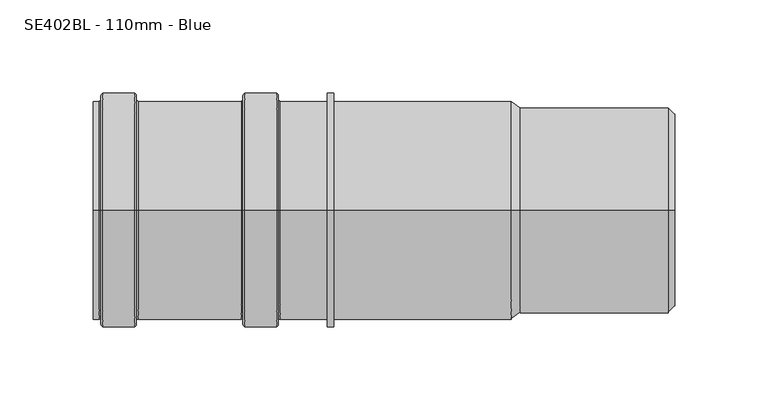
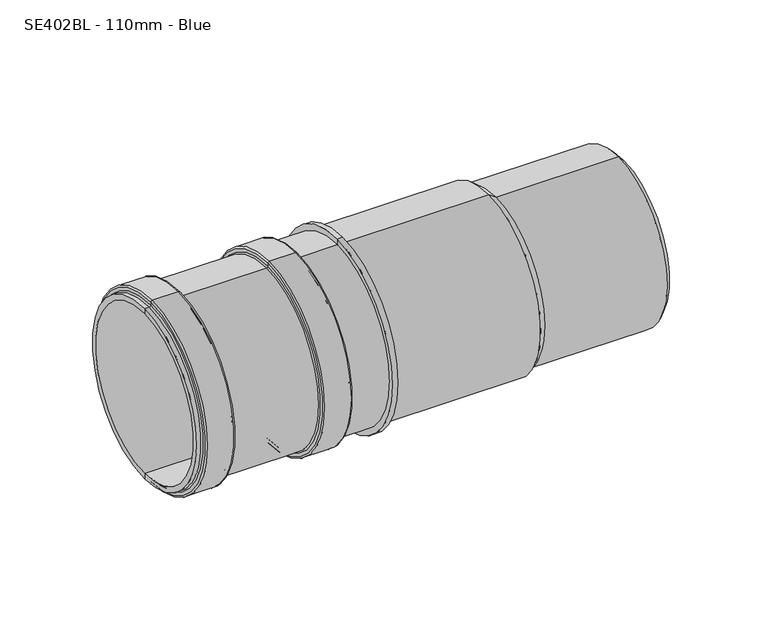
"""IFC4 building model written with IfcOpenShell, lengths in millimetres: pipe fitting geometry, MarleyPlumbingAndDrainage_PipeFitting_dBlueTripleSocket : SE402BL - 110mm - Blue."""

from ifc_helpers import new_model, si_unit, point, frame, origin, place, context, project, spatial, polyline, circle_curve, ellipse_curve, trimmed, source, transform, mapped, element, save
from ifc_brep_helpers import plane_surface, cylinder_surface, revolved_surface, advanced_brep


def se402bl_110mm_blue_ff2aa63c(model_context):
    return source(origin(), model_context, "Body", "AdvancedBrep", [
        advanced_brep(
        [(-147.3253818, 0.0, -59.5), (-147.3253818, 0.0, 59.5), (-146.3253818, 0.0, 58.5), (-146.3253818, 0.0, -58.5), (-147.3253818, 0.0, -61.5), (-147.3253818, 0.0, 61.5), (-148.3253818, 0.0, -62.5), (-148.3253818, 0.0, 62.5), (-165.3253818, 0.0, -62.5), (-165.3253818, 0.0, 62.5), (-166.3253818, 0.0, -61.5), (-166.3253818, 0.0, 61.5), (-166.3253818, 0.0, -59.5), (-166.3253818, 0.0, 59.5), (-167.3253818, 0.0, -58.5), (-167.3253818, 0.0, 58.5), (-170.3253818, 0.0, -58.5), (-170.3253818, 0.0, 58.5), (-170.3253818, 0.0, -55.0), (-170.3253818, 0.0, 55.0), (51.6746182, 0.0, -55.0), (51.6746182, 0.0, 55.0), (-91.2961891, 0.0, 58.5), (-91.2961891, 0.0, -58.5), (140.6746182, 0.0, -51.5), (140.6746182, 0.0, 51.5), (56.4919549, 0.0, 51.5), (56.4919549, 0.0, -51.5), (-70.3298051, 0.0, -58.5), (-70.3298051, 0.0, 58.5), (-45.3253818, 0.0, 58.5), (-45.3253818, 0.0, -58.5), (-71.3253818, 0.0, -61.5), (-71.3253818, 0.0, 61.5), (-71.3253818, 0.0, 59.4955767), (-71.3253818, 0.0, -59.4955767), (-89.3187639, 0.0, -62.5), (-89.3187639, 0.0, 62.5), (-72.3253818, 0.0, 62.5), (-72.3253818, 0.0, -62.5), (-90.3253818, 0.0, -59.4708073), (-90.3253818, 0.0, 59.4708073), (-90.3253818, 0.0, 61.4933821), (-90.3253818, 0.0, -61.4933821), (57.9919549, 0.0, -55.0), (57.9919549, 0.0, 55.0), (137.1746182, 0.0, 55.0), (137.1746182, 0.0, -55.0), (53.1746182, 0.0, -58.5), (53.1746182, 0.0, 58.5), (-41.8253818, 0.0, -58.5), (-41.8253818, 0.0, 58.5), (-41.8253818, 0.0, -62.5), (-41.8253818, 0.0, 62.5), (-45.3253818, 0.0, -62.5), (-45.3253818, 0.0, 62.5)],
        [
            (0, 1, circle_curve(frame((-147.3253818, 0.0, 0.0), z_axis=(1.0, 0.0, 0.0), x_axis=(0.0, 0.0, 1.0)), 59.5)),
            (1, 2, circle_curve(frame((-146.3253818, 0.0, 59.5), z_axis=(0.0, -1.0, 0.0), x_axis=(1.0, 0.0, 0.0)), 1.0)),
            (2, 3, circle_curve(frame((-146.3253818, 0.0, 0.0), z_axis=(-1.0, 0.0, 0.0), x_axis=(0.0, 0.0, 1.0)), 58.5)),
            (3, 0, circle_curve(frame((-146.3253818, 0.0, -59.5), z_axis=(0.0, -1.0, 0.0), x_axis=(1.0, 0.0, 0.0)), 1.0)),
            (1, 0, circle_curve(frame((-147.3253818, 0.0, 0.0), z_axis=(1.0, 0.0, 0.0), x_axis=(0.0, 0.0, 1.0)), 59.5)),
            (3, 2, circle_curve(frame((-146.3253818, 0.0, 0.0), z_axis=(-1.0, 0.0, 0.0), x_axis=(0.0, 0.0, 1.0)), 58.5)),
            (4, 5, circle_curve(frame((-147.3253818, 0.0, 0.0), z_axis=(1.0, 0.0, 0.0), x_axis=(0.0, 0.0, 1.0)), 61.5)),
            (5, 1),
            (0, 4),
            (5, 4, circle_curve(frame((-147.3253818, 0.0, 0.0), z_axis=(1.0, 0.0, 0.0), x_axis=(0.0, 0.0, 1.0)), 61.5)),
            (6, 7, circle_curve(frame((-148.3253818, 0.0, 0.0), z_axis=(1.0, 0.0, 0.0), x_axis=(0.0, 0.0, 1.0)), 62.5)),
            (7, 5, circle_curve(frame((-148.3253818, 0.0, 61.5), z_axis=(0.0, 1.0, 0.0), x_axis=(1.0, 0.0, 0.0)), 1.0)),
            (4, 6, circle_curve(frame((-148.3253818, 0.0, -61.5), z_axis=(0.0, 1.0, 0.0), x_axis=(1.0, 0.0, 0.0)), 1.0)),
            (7, 6, circle_curve(frame((-148.3253818, 0.0, 0.0), z_axis=(1.0, 0.0, 0.0), x_axis=(0.0, 0.0, 1.0)), 62.5)),
            (8, 9, circle_curve(frame((-165.3253818, 0.0, 0.0), z_axis=(1.0, 0.0, 0.0), x_axis=(0.0, 0.0, 1.0)), 62.5)),
            (9, 7),
            (6, 8),
            (9, 8, circle_curve(frame((-165.3253818, 0.0, 0.0), z_axis=(1.0, 0.0, 0.0), x_axis=(0.0, 0.0, 1.0)), 62.5)),
            (10, 11, circle_curve(frame((-166.3253818, 0.0, 0.0), z_axis=(1.0, 0.0, 0.0), x_axis=(0.0, 0.0, 1.0)), 61.5)),
            (11, 9, circle_curve(frame((-165.3253818, 0.0, 61.5), z_axis=(0.0, 1.0, 0.0), x_axis=(1.0, 0.0, 0.0)), 1.0)),
            (8, 10, circle_curve(frame((-165.3253818, 0.0, -61.5), z_axis=(0.0, 1.0, 0.0), x_axis=(1.0, 0.0, 0.0)), 1.0)),
            (11, 10, circle_curve(frame((-166.3253818, 0.0, 0.0), z_axis=(1.0, 0.0, 0.0), x_axis=(0.0, 0.0, 1.0)), 61.5)),
            (12, 13, circle_curve(frame((-166.3253818, 0.0, 0.0), z_axis=(1.0, 0.0, 0.0), x_axis=(0.0, 0.0, 1.0)), 59.5)),
            (13, 11),
            (10, 12),
            (13, 12, circle_curve(frame((-166.3253818, 0.0, 0.0), z_axis=(1.0, 0.0, 0.0), x_axis=(0.0, 0.0, 1.0)), 59.5)),
            (14, 15, circle_curve(frame((-167.3253818, 0.0, 0.0), z_axis=(1.0, 0.0, 0.0), x_axis=(0.0, 0.0, 1.0)), 58.5)),
            (15, 13, circle_curve(frame((-167.3253818, 0.0, 59.5), z_axis=(0.0, -1.0, 0.0), x_axis=(1.0, 0.0, 0.0)), 1.0)),
            (12, 14, circle_curve(frame((-167.3253818, 0.0, -59.5), z_axis=(0.0, -1.0, 0.0), x_axis=(1.0, 0.0, 0.0)), 1.0)),
            (15, 14, circle_curve(frame((-167.3253818, 0.0, 0.0), z_axis=(1.0, 0.0, 0.0), x_axis=(0.0, 0.0, 1.0)), 58.5)),
            (16, 17, circle_curve(frame((-170.3253818, 0.0, 0.0), z_axis=(1.0, 0.0, 0.0), x_axis=(0.0, 0.0, 1.0)), 58.5)),
            (17, 15),
            (14, 16),
            (17, 16, circle_curve(frame((-170.3253818, 0.0, 0.0), z_axis=(1.0, 0.0, 0.0), x_axis=(0.0, 0.0, 1.0)), 58.5)),
            (18, 19, circle_curve(frame((-170.3253818, 0.0, 0.0), z_axis=(1.0, 0.0, 0.0), x_axis=(0.0, 0.0, 1.0)), 55.0)),
            (19, 17),
            (16, 18),
            (19, 18, circle_curve(frame((-170.3253818, 0.0, 0.0), z_axis=(1.0, 0.0, 0.0), x_axis=(0.0, 0.0, 1.0)), 55.0)),
            (20, 21, circle_curve(frame((51.6746182, 0.0, 0.0), z_axis=(1.0, 0.0, 0.0), x_axis=(0.0, 0.0, 1.0)), 55.0)),
            (21, 19),
            (18, 20),
            (21, 20, circle_curve(frame((51.6746182, 0.0, 0.0), z_axis=(1.0, 0.0, 0.0), x_axis=(0.0, 0.0, 1.0)), 55.0)),
            (2, 22),
            (22, 23, circle_curve(frame((-91.2961891, 0.0, 0.0), z_axis=(-1.0, 0.0, 0.0), x_axis=(0.0, 0.0, 1.0)), 58.5)),
            (23, 3),
            (23, 22, circle_curve(frame((-91.2961891, 0.0, 0.0), z_axis=(-1.0, 0.0, 0.0), x_axis=(0.0, 0.0, 1.0)), 58.5)),
            (24, 25, circle_curve(frame((140.6746182, 0.0, 0.0), z_axis=(1.0, 0.0, 0.0), x_axis=(0.0, 0.0, 1.0)), 51.5)),
            (25, 26),
            (26, 27, circle_curve(frame((56.4919549, 0.0, 0.0), z_axis=(-1.0, 0.0, 0.0), x_axis=(0.0, 0.0, 1.0)), 51.5)),
            (27, 24),
            (25, 24, circle_curve(frame((140.6746182, 0.0, 0.0), z_axis=(1.0, 0.0, 0.0), x_axis=(0.0, 0.0, 1.0)), 51.5)),
            (27, 26, circle_curve(frame((56.4919549, 0.0, 0.0), z_axis=(-1.0, 0.0, 0.0), x_axis=(0.0, 0.0, 1.0)), 51.5)),
            (28, 29, circle_curve(frame((-70.3298051, 0.0, 0.0), z_axis=(1.0, 0.0, 0.0), x_axis=(0.0, 0.0, 1.0)), 58.5)),
            (29, 30),
            (30, 31, circle_curve(frame((-45.3253818, 0.0, 0.0), z_axis=(-1.0, 0.0, 0.0), x_axis=(0.0, 0.0, 1.0)), 58.5)),
            (31, 28),
            (29, 28, circle_curve(frame((-70.3298051, 0.0, 0.0), z_axis=(1.0, 0.0, 0.0), x_axis=(0.0, 0.0, 1.0)), 58.5)),
            (31, 30, circle_curve(frame((-45.3253818, 0.0, 0.0), z_axis=(-1.0, 0.0, 0.0), x_axis=(0.0, 0.0, 1.0)), 58.5)),
            (32, 33, circle_curve(frame((-71.3253818, 0.0, 0.0), z_axis=(1.0, 0.0, 0.0), x_axis=(0.0, 0.0, 1.0)), 61.5)),
            (33, 34),
            (34, 35, circle_curve(frame((-71.3253818, 0.0, 0.0), z_axis=(-1.0, 0.0, 0.0), x_axis=(0.0, 0.0, 1.0)), 59.4955767)),
            (35, 32),
            (33, 32, circle_curve(frame((-71.3253818, 0.0, 0.0), z_axis=(1.0, 0.0, 0.0), x_axis=(0.0, 0.0, 1.0)), 61.5)),
            (35, 34, circle_curve(frame((-71.3253818, 0.0, 0.0), z_axis=(-1.0, 0.0, 0.0), x_axis=(0.0, 0.0, 1.0)), 59.4955767)),
            (36, 37, circle_curve(frame((-89.3187639, 0.0, 0.0), z_axis=(1.0, 0.0, 0.0), x_axis=(0.0, 0.0, 1.0)), 62.5)),
            (37, 38),
            (38, 39, circle_curve(frame((-72.3253818, 0.0, 0.0), z_axis=(-1.0, 0.0, 0.0), x_axis=(0.0, 0.0, 1.0)), 62.5)),
            (39, 36),
            (37, 36, circle_curve(frame((-89.3187639, 0.0, 0.0), z_axis=(1.0, 0.0, 0.0), x_axis=(0.0, 0.0, 1.0)), 62.5)),
            (39, 38, circle_curve(frame((-72.3253818, 0.0, 0.0), z_axis=(-1.0, 0.0, 0.0), x_axis=(0.0, 0.0, 1.0)), 62.5)),
            (40, 41, circle_curve(frame((-90.3253818, 0.0, 0.0), z_axis=(1.0, 0.0, 0.0), x_axis=(0.0, 0.0, 1.0)), 59.4708073)),
            (41, 42),
            (42, 43, circle_curve(frame((-90.3253818, 0.0, 0.0), z_axis=(-1.0, 0.0, 0.0), x_axis=(0.0, 0.0, 1.0)), 61.4933821)),
            (43, 40),
            (41, 40, circle_curve(frame((-90.3253818, 0.0, 0.0), z_axis=(1.0, 0.0, 0.0), x_axis=(0.0, 0.0, 1.0)), 59.4708073)),
            (43, 42, circle_curve(frame((-90.3253818, 0.0, 0.0), z_axis=(-1.0, 0.0, 0.0), x_axis=(0.0, 0.0, 1.0)), 61.4933821)),
            (34, 29, circle_curve(frame((-70.3298051, 0.0, 59.4955767), z_axis=(0.0, -1.0, 0.0), x_axis=(1.0, 0.0, 0.0)), 0.9955767)),
            (28, 35, circle_curve(frame((-70.3298051, 0.0, -59.4955767), z_axis=(0.0, -1.0, 0.0), x_axis=(1.0, 0.0, 0.0)), 0.9955767)),
            (38, 33, circle_curve(frame((-72.3253818, 0.0, 61.5), z_axis=(0.0, 1.0, 0.0), x_axis=(1.0, 0.0, 0.0)), 1.0)),
            (32, 39, circle_curve(frame((-72.3253818, 0.0, -61.5), z_axis=(0.0, 1.0, 0.0), x_axis=(1.0, 0.0, 0.0)), 1.0)),
            (42, 37, circle_curve(frame((-89.3187639, 0.0, 61.4933821), z_axis=(0.0, 1.0, 0.0), x_axis=(1.0, 0.0, 0.0)), 1.0066179)),
            (36, 43, circle_curve(frame((-89.3187639, 0.0, -61.4933821), z_axis=(0.0, 1.0, 0.0), x_axis=(1.0, 0.0, 0.0)), 1.0066179)),
            (22, 41, circle_curve(frame((-91.2961891, 0.0, 59.4708073), z_axis=(0.0, -1.0, 0.0), x_axis=(1.0, 0.0, 0.0)), 0.9708073)),
            (40, 23, circle_curve(frame((-91.2961891, 0.0, -59.4708073), z_axis=(0.0, -1.0, 0.0), x_axis=(1.0, 0.0, 0.0)), 0.9708073)),
            (44, 45, circle_curve(frame((57.9919549, 0.0, 0.0), z_axis=(1.0, 0.0, 0.0), x_axis=(0.0, 0.0, 1.0)), 55.0)),
            (45, 46),
            (46, 47, circle_curve(frame((137.1746182, 0.0, 0.0), z_axis=(-1.0, 0.0, 0.0), x_axis=(0.0, 0.0, 1.0)), 55.0)),
            (47, 44),
            (45, 44, circle_curve(frame((57.9919549, 0.0, 0.0), z_axis=(1.0, 0.0, 0.0), x_axis=(0.0, 0.0, 1.0)), 55.0)),
            (47, 46, circle_curve(frame((137.1746182, 0.0, 0.0), z_axis=(-1.0, 0.0, 0.0), x_axis=(0.0, 0.0, 1.0)), 55.0)),
            (48, 49, circle_curve(frame((53.1746182, 0.0, 0.0), z_axis=(1.0, 0.0, 0.0), x_axis=(0.0, 0.0, 1.0)), 58.5)),
            (49, 45),
            (44, 48),
            (49, 48, circle_curve(frame((53.1746182, 0.0, 0.0), z_axis=(1.0, 0.0, 0.0), x_axis=(0.0, 0.0, 1.0)), 58.5)),
            (50, 51, circle_curve(frame((-41.8253818, 0.0, 0.0), z_axis=(1.0, 0.0, 0.0), x_axis=(0.0, 0.0, 1.0)), 58.5)),
            (51, 49),
            (48, 50),
            (51, 50, circle_curve(frame((-41.8253818, 0.0, 0.0), z_axis=(1.0, 0.0, 0.0), x_axis=(0.0, 0.0, 1.0)), 58.5)),
            (52, 53, circle_curve(frame((-41.8253818, 0.0, 0.0), z_axis=(1.0, 0.0, 0.0), x_axis=(0.0, 0.0, 1.0)), 62.5)),
            (53, 51),
            (50, 52),
            (53, 52, circle_curve(frame((-41.8253818, 0.0, 0.0), z_axis=(1.0, 0.0, 0.0), x_axis=(0.0, 0.0, 1.0)), 62.5)),
            (54, 55, circle_curve(frame((-45.3253818, 0.0, 0.0), z_axis=(1.0, 0.0, 0.0), x_axis=(0.0, 0.0, 1.0)), 62.5)),
            (55, 53),
            (52, 54),
            (55, 54, circle_curve(frame((-45.3253818, 0.0, 0.0), z_axis=(1.0, 0.0, 0.0), x_axis=(0.0, 0.0, 1.0)), 62.5)),
            (30, 55),
            (54, 31),
            (46, 25),
            (24, 47),
            (26, 21),
            (20, 27),
        ],
        [
            revolved_surface(trimmed(ellipse_curve(frame((-146.3253818, 0.0, 59.5), z_axis=(0.0, 1.0, 0.0), x_axis=(1.0, 0.0, 0.0)), 1.0, 1.0), [point((-146.3253818, 0.0, 58.5))], [point((-147.3253818, 0.0, 59.5))], True, "CARTESIAN"), (-1308.2325039, 0.0, 0.0), (-1.0, 0.0, 0.0)),
            plane_surface(frame((-147.3253818, 0.0, 0.0), z_axis=(1.0, 0.0, 0.0), x_axis=(0.0, 0.0, 1.0))),
            revolved_surface(trimmed(ellipse_curve(frame((-148.3253818, 0.0, 61.5), z_axis=(0.0, -1.0, 0.0), x_axis=(1.0, 0.0, 0.0)), 1.0, 1.0), [point((-147.3253818, 0.0, 61.5))], [point((-148.3253818, 0.0, 62.5))], True, "CARTESIAN"), (-1308.2325039, 0.0, 0.0), (-1.0, 0.0, 0.0)),
            cylinder_surface(frame((-1308.2325039, 0.0, 0.0), z_axis=(-1.0, 0.0, 0.0), x_axis=(0.0, 0.0, 1.0)), 62.5),
            revolved_surface(trimmed(ellipse_curve(frame((-165.3253818, 0.0, 61.5), z_axis=(0.0, -1.0, 0.0), x_axis=(1.0, 0.0, 0.0)), 1.0, 1.0), [point((-165.3253818, 0.0, 62.5))], [point((-166.3253818, 0.0, 61.5))], True, "CARTESIAN"), (-1308.2325039, 0.0, 0.0), (-1.0, 0.0, 0.0)),
            plane_surface(frame((-166.3253818, 0.0, 0.0), z_axis=(-1.0, 0.0, 0.0), x_axis=(0.0, 0.0, 1.0))),
            revolved_surface(trimmed(ellipse_curve(frame((-167.3253818, 0.0, 59.5), z_axis=(0.0, 1.0, 0.0), x_axis=(1.0, 0.0, 0.0)), 1.0, 1.0), [point((-166.3253818, 0.0, 59.5))], [point((-167.3253818, 0.0, 58.5))], True, "CARTESIAN"), (-1308.2325039, 0.0, 0.0), (-1.0, 0.0, 0.0)),
            cylinder_surface(frame((-1308.2325039, 0.0, 0.0), z_axis=(-1.0, 0.0, 0.0), x_axis=(0.0, 0.0, 1.0)), 58.5),
            plane_surface(frame((-170.3253818, 0.0, 0.0), z_axis=(-1.0, 0.0, 0.0), x_axis=(0.0, 0.0, 1.0))),
            revolved_surface(polyline([(-170.32538180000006, 0.0, 55.0), (51.67461819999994, 0.0, 55.0)]), (-1308.2325039, 0.0, 0.0), (-1.0, 0.0, 0.0)),
            revolved_surface(polyline([(56.49195490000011, 0.0, 51.5), (140.67461819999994, 0.0, 51.5)]), (-1308.2325039, 0.0, 0.0), (-1.0, 0.0, 0.0)),
            plane_surface(frame((-71.3253818, 0.0, 0.0), z_axis=(1.0, 0.0, 0.0), x_axis=(0.0, 0.0, 1.0))),
            plane_surface(frame((-90.3253818, 0.0, 0.0), z_axis=(-1.0, 0.0, 0.0), x_axis=(0.0, 0.0, 1.0))),
            revolved_surface(trimmed(ellipse_curve(frame((-70.3298051, 0.0, 59.4955767), z_axis=(0.0, 1.0, 0.0), x_axis=(1.0, 0.0, 0.0)), 0.9955767, 0.9955767), [point((-70.3298051, 0.0, 58.5))], [point((-71.3253818, 0.0, 59.4955767))], True, "CARTESIAN"), (-1308.2325039, 0.0, 0.0), (-1.0, 0.0, 0.0)),
            revolved_surface(trimmed(ellipse_curve(frame((-72.3253818, 0.0, 61.5), z_axis=(0.0, -1.0, 0.0), x_axis=(1.0, 0.0, 0.0)), 1.0, 1.0), [point((-71.3253818, 0.0, 61.5))], [point((-72.3253818, 0.0, 62.5))], True, "CARTESIAN"), (-1308.2325039, 0.0, 0.0), (-1.0, 0.0, 0.0)),
            revolved_surface(trimmed(ellipse_curve(frame((-89.3187639, 0.0, 61.4933821), z_axis=(0.0, -1.0, 0.0), x_axis=(1.0, 0.0, 0.0)), 1.0066179, 1.0066179), [point((-89.3187639, 0.0, 62.5))], [point((-90.3253818, 0.0, 61.4933821))], True, "CARTESIAN"), (-1308.2325039, 0.0, 0.0), (-1.0, 0.0, 0.0)),
            revolved_surface(trimmed(ellipse_curve(frame((-91.2961891, 0.0, 59.4708073), z_axis=(0.0, 1.0, 0.0), x_axis=(1.0, 0.0, 0.0)), 0.9708073, 0.9708073), [point((-90.3253818, 0.0, 59.4708073))], [point((-91.2961891, 0.0, 58.5))], True, "CARTESIAN"), (-1308.2325039, 0.0, 0.0), (-1.0, 0.0, 0.0)),
            cylinder_surface(frame((-1308.2325039, 0.0, 0.0), z_axis=(-1.0, 0.0, 0.0), x_axis=(0.0, 0.0, 1.0)), 55.0),
            revolved_surface(polyline([(57.9919549, 0.0, 55.0), (53.1746182, 0.0, 58.5)]), (-1308.2325039, 0.0, 0.0), (-1.0, 0.0, 0.0)),
            plane_surface(frame((-41.8253818, 0.0, 0.0), z_axis=(1.0, 0.0, 0.0), x_axis=(0.0, 0.0, 1.0))),
            plane_surface(frame((-45.3253818, 0.0, 0.0), z_axis=(-1.0, 0.0, 0.0), x_axis=(0.0, 0.0, 1.0))),
            revolved_surface(polyline([(140.6746182, 0.0, 51.5), (137.1746182, 0.0, 55.0)]), (-1308.2325039, 0.0, 0.0), (-1.0, 0.0, 0.0)),
            revolved_surface(polyline([(51.6746182, 0.0, 55.0), (56.4919549, 0.0, 51.5)]), (-1308.2325039, 0.0, 0.0), (-1.0, 0.0, 0.0)),
        ],
        [
            (0, [[1, 2, 3, 4]]),
            (0, [[5, -4, 6, -2]]),
            (1, [[7, 8, -1, 9]]),
            (1, [[10, -9, -5, -8]]),
            (2, [[11, 12, -7, 13]]),
            (2, [[14, -13, -10, -12]]),
            (3, [[15, 16, -11, 17]]),
            (3, [[18, -17, -14, -16]]),
            (4, [[19, 20, -15, 21]]),
            (4, [[22, -21, -18, -20]]),
            (5, [[23, 24, -19, 25]]),
            (5, [[26, -25, -22, -24]]),
            (6, [[27, 28, -23, 29]]),
            (6, [[30, -29, -26, -28]]),
            (7, [[31, 32, -27, 33]]),
            (7, [[34, -33, -30, -32]]),
            (8, [[35, 36, -31, 37]]),
            (8, [[38, -37, -34, -36]]),
            (9, [[39, 40, -35, 41]]),
            (9, [[42, -41, -38, -40]]),
            (7, [[-3, 43, 44, 45]]),
            (7, [[-6, -45, 46, -43]]),
            (10, [[47, 48, 49, 50]]),
            (10, [[51, -50, 52, -48]]),
            (7, [[53, 54, 55, 56]]),
            (7, [[57, -56, 58, -54]]),
            (11, [[59, 60, 61, 62]]),
            (11, [[63, -62, 64, -60]]),
            (3, [[65, 66, 67, 68]]),
            (3, [[69, -68, 70, -66]]),
            (12, [[71, 72, 73, 74]]),
            (12, [[75, -74, 76, -72]]),
            (13, [[-61, 77, -53, 78]]),
            (13, [[-64, -78, -57, -77]]),
            (14, [[-67, 79, -59, 80]]),
            (14, [[-70, -80, -63, -79]]),
            (15, [[-73, 81, -65, 82]]),
            (15, [[-76, -82, -69, -81]]),
            (16, [[-44, 83, -71, 84]]),
            (16, [[-46, -84, -75, -83]]),
            (17, [[85, 86, 87, 88]]),
            (17, [[89, -88, 90, -86]]),
            (18, [[91, 92, -85, 93]]),
            (18, [[94, -93, -89, -92]]),
            (7, [[95, 96, -91, 97]]),
            (7, [[98, -97, -94, -96]]),
            (19, [[99, 100, -95, 101]]),
            (19, [[102, -101, -98, -100]]),
            (3, [[103, 104, -99, 105]]),
            (3, [[106, -105, -102, -104]]),
            (20, [[-55, 107, -103, 108]]),
            (20, [[-58, -108, -106, -107]]),
            (21, [[-87, 109, -47, 110]]),
            (21, [[-90, -110, -51, -109]]),
            (22, [[-49, 111, -39, 112]]),
            (22, [[-52, -112, -42, -111]]),
        ],
    ),
    ])


if __name__ == "__main__":
    model = new_model("IFC4")
    model_context = context("Model", 3, world=origin())
    ifc_project = project(units=[si_unit("LENGTHUNIT", "METRE", prefix="MILLI")], contexts=[model_context])
    site = spatial("IfcSite", under=ifc_project)
    building = spatial("IfcBuilding", under=site)
    placement = place(None, origin())
    se402bl_110mm_blue_shape = se402bl_110mm_blue_ff2aa63c(model_context)
    element("IfcPipeFitting", 1, ObjectType="MarleyPlumbingAndDrainage_PipeFitting_dBlueTripleSocket : SE402BL - 110mm - Blue", at=placement, inside=building, context=model_context, shape_type="MappedRepresentation", body=[
        mapped(se402bl_110mm_blue_shape, transform((0.0, 0.0, 0.0), x_axis=(1.0, 0.0, 0.0), y_axis=(0.0, 1.0, 0.0), z_axis=(0.0, 0.0, 1.0))),
    ])
    save(model, "model.ifc")
